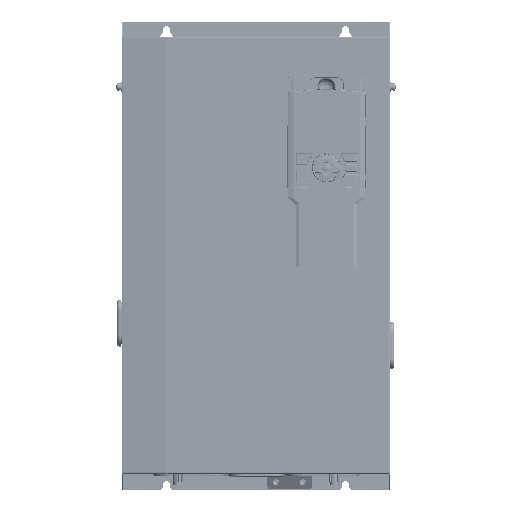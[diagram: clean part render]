
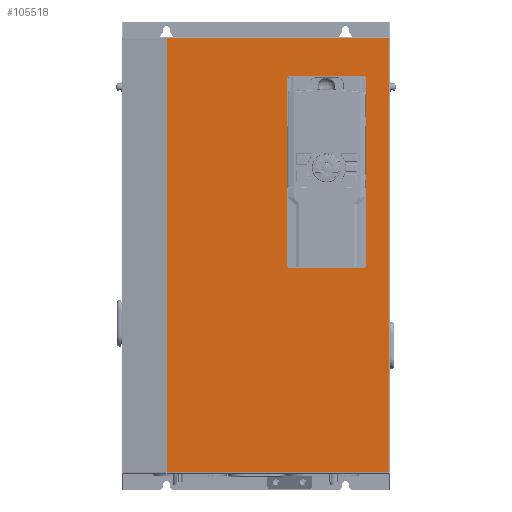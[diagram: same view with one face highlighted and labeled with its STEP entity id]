
A CAD part, front view. The second image highlights one B-rep face of the part: STEP entity #105518.
In plain terms, the highlighted planar face has unit normal (0, -1, 0) as drawn and (0, 1, 0) by its records, which use the part's own axes.
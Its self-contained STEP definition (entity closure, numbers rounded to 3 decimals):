
#104330=DIRECTION('',(0.,0.,-1.));
#104331=VECTOR('',#104330,168.5);
#104332=CARTESIAN_POINT('',(78.,0.,10.));
#104333=LINE('',#104332,#104331);
#104334=CARTESIAN_POINT('',(76.5,0.,-158.5));
#104335=DIRECTION('',(0.,1.,0.));
#104336=DIRECTION('',(1.,0.,0.));
#104337=AXIS2_PLACEMENT_3D('',#104334,#104335,#104336);
#104339=DIRECTION('',(-1.,0.,0.));
#104340=VECTOR('',#104339,67.);
#104341=CARTESIAN_POINT('',(76.5,0.,-160.));
#104342=LINE('',#104341,#104340);
#104343=CARTESIAN_POINT('',(9.5,0.,-158.5));
#104344=DIRECTION('',(0.,1.,0.));
#104345=DIRECTION('',(0.,0.,-1.));
#104346=AXIS2_PLACEMENT_3D('',#104343,#104344,#104345);
#104348=DIRECTION('',(0.,0.,1.));
#104349=VECTOR('',#104348,168.5);
#104350=CARTESIAN_POINT('',(8.,0.,-158.5));
#104351=LINE('',#104350,#104349);
#104352=CARTESIAN_POINT('',(9.5,0.,10.));
#104353=DIRECTION('',(0.,1.,0.));
#104354=DIRECTION('',(-1.,0.,0.));
#104355=AXIS2_PLACEMENT_3D('',#104352,#104353,#104354);
#104357=DIRECTION('',(1.,0.,0.));
#104358=VECTOR('',#104357,67.);
#104359=CARTESIAN_POINT('',(9.5,0.,11.5));
#104360=LINE('',#104359,#104358);
#104361=CARTESIAN_POINT('',(76.5,0.,10.));
#104362=DIRECTION('',(0.,1.,0.));
#104363=DIRECTION('',(0.,0.,1.));
#104364=AXIS2_PLACEMENT_3D('',#104361,#104362,#104363);
#104382=DIRECTION('',(0.,0.,1.));
#104383=VECTOR('',#104382,388.1);
#104384=CARTESIAN_POINT('',(-99.928,0.,-194.05));
#104385=LINE('',#104384,#104383);
#104426=DIRECTION('',(1.,0.,0.));
#104427=VECTOR('',#104426,198.728);
#104428=CARTESIAN_POINT('',(-99.928,0.,194.05));
#104429=LINE('',#104428,#104427);
#104586=DIRECTION('',(0.,0.,-1.));
#104587=VECTOR('',#104586,388.1);
#104588=CARTESIAN_POINT('',(98.8,0.,194.05));
#104589=LINE('',#104588,#104587);
#104666=DIRECTION('',(-1.,0.,0.));
#104667=VECTOR('',#104666,198.728);
#104668=CARTESIAN_POINT('',(98.8,0.,-194.05));
#104669=LINE('',#104668,#104667);
#105244=CARTESIAN_POINT('',(-99.928,0.,-194.05));
#105245=CARTESIAN_POINT('',(-99.928,0.,194.05));
#105246=VERTEX_POINT('',#105244);
#105247=VERTEX_POINT('',#105245);
#105248=CARTESIAN_POINT('',(98.8,0.,-194.05));
#105249=VERTEX_POINT('',#105248);
#105250=CARTESIAN_POINT('',(98.8,0.,194.05));
#105251=VERTEX_POINT('',#105250);
#105252=CARTESIAN_POINT('',(78.,0.,10.));
#105253=CARTESIAN_POINT('',(78.,0.,-158.5));
#105254=VERTEX_POINT('',#105252);
#105255=VERTEX_POINT('',#105253);
#105256=CARTESIAN_POINT('',(76.5,0.,-160.));
#105257=VERTEX_POINT('',#105256);
#105258=CARTESIAN_POINT('',(9.5,0.,-160.));
#105259=VERTEX_POINT('',#105258);
#105260=CARTESIAN_POINT('',(8.,0.,-158.5));
#105261=VERTEX_POINT('',#105260);
#105262=CARTESIAN_POINT('',(8.,0.,10.));
#105263=VERTEX_POINT('',#105262);
#105264=CARTESIAN_POINT('',(9.5,0.,11.5));
#105265=VERTEX_POINT('',#105264);
#105266=CARTESIAN_POINT('',(76.5,0.,11.5));
#105267=VERTEX_POINT('',#105266);
#105485=CARTESIAN_POINT('',(0.,0.,0.));
#105486=DIRECTION('',(0.,1.,0.));
#105487=DIRECTION('',(1.,0.,0.));
#105488=AXIS2_PLACEMENT_3D('',#105485,#105486,#105487);
#105489=PLANE('',#105488);
#105491=ORIENTED_EDGE('',*,*,#105490,.F.);
#105493=ORIENTED_EDGE('',*,*,#105492,.F.);
#105495=ORIENTED_EDGE('',*,*,#105494,.F.);
#105497=ORIENTED_EDGE('',*,*,#105496,.F.);
#105498=EDGE_LOOP('',(#105491,#105493,#105495,#105497));
#105499=FACE_OUTER_BOUND('',#105498,.F.);
#105501=ORIENTED_EDGE('',*,*,#105500,.T.);
#105503=ORIENTED_EDGE('',*,*,#105502,.T.);
#105505=ORIENTED_EDGE('',*,*,#105504,.T.);
#105507=ORIENTED_EDGE('',*,*,#105506,.T.);
#105509=ORIENTED_EDGE('',*,*,#105508,.T.);
#105511=ORIENTED_EDGE('',*,*,#105510,.T.);
#105513=ORIENTED_EDGE('',*,*,#105512,.T.);
#105515=ORIENTED_EDGE('',*,*,#105514,.T.);
#105516=EDGE_LOOP('',(#105501,#105503,#105505,#105507,#105509,#105511,#105513,
#105515));
#105517=FACE_BOUND('',#105516,.F.);
#104338=CIRCLE('',#104337,1.5);
#104347=CIRCLE('',#104346,1.5);
#104356=CIRCLE('',#104355,1.5);
#104365=CIRCLE('',#104364,1.5);
#105490=EDGE_CURVE('',#105246,#105247,#104385,.T.);
#105492=EDGE_CURVE('',#105249,#105246,#104669,.T.);
#105494=EDGE_CURVE('',#105251,#105249,#104589,.T.);
#105496=EDGE_CURVE('',#105247,#105251,#104429,.T.);
#105500=EDGE_CURVE('',#105254,#105255,#104333,.T.);
#105502=EDGE_CURVE('',#105255,#105257,#104338,.T.);
#105504=EDGE_CURVE('',#105257,#105259,#104342,.T.);
#105506=EDGE_CURVE('',#105259,#105261,#104347,.T.);
#105508=EDGE_CURVE('',#105261,#105263,#104351,.T.);
#105510=EDGE_CURVE('',#105263,#105265,#104356,.T.);
#105512=EDGE_CURVE('',#105265,#105267,#104360,.T.);
#105514=EDGE_CURVE('',#105267,#105254,#104365,.T.);
#105518=ADVANCED_FACE('',(#105499,#105517),#105489,.T.);
